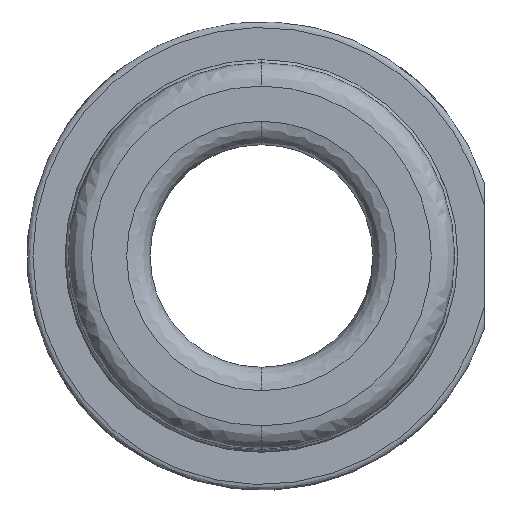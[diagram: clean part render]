
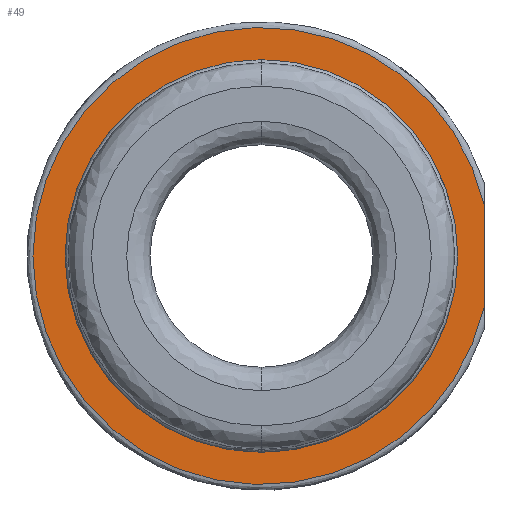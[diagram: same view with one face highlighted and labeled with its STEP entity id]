
A CAD part, left-side view. The second image highlights one B-rep face of the part: STEP entity #49.
In plain terms, the highlighted planar face has unit normal (-1, 0, 0).
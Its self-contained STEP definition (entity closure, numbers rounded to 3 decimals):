
#49=ADVANCED_FACE('',(#224,#225),#223,.F.);
#223=PLANE('',#1063);
#224=FACE_OUTER_BOUND('',#1064,.T.);
#225=FACE_BOUND('',#1065,.T.);
#1060=CARTESIAN_POINT('',(-5.,-24.357,38.646));
#1061=DIRECTION('',(1.,0.,0.));
#1062=DIRECTION('',(0.,0.,-1.));
#1063=AXIS2_PLACEMENT_3D('',#1060,#1061,#1062);
#1064=EDGE_LOOP('',(#2120,#2121));
#1065=EDGE_LOOP('',(#2122,#2123));
#2120=ORIENTED_EDGE('',*,*,#2449,.T.);
#2121=ORIENTED_EDGE('',*,*,#2443,.T.);
#2122=ORIENTED_EDGE('',*,*,#2450,.T.);
#2123=ORIENTED_EDGE('',*,*,#2451,.T.);
#2443=EDGE_CURVE('',#2819,#2812,#2820,.T.);
#2449=EDGE_CURVE('',#2812,#2819,#2860,.T.);
#2450=EDGE_CURVE('',#2866,#2867,#2868,.T.);
#2451=EDGE_CURVE('',#2867,#2866,#2874,.T.);
#2812=VERTEX_POINT('',#4093);
#2819=VERTEX_POINT('',#4106);
#2820=LINE('',#4107,#4108);
#2860=CIRCLE('',#4145,19.5);
#2866=VERTEX_POINT('',#4146);
#2867=VERTEX_POINT('',#4147);
#2868=CIRCLE('',#4151,16.5);
#2874=CIRCLE('',#4155,16.5);
#4093=CARTESIAN_POINT('',(-5.,-19.,4.387));
#4106=CARTESIAN_POINT('',(-5.,-19.,-4.387));
#4107=CARTESIAN_POINT('',(-5.,-19.,-4.387));
#4108=VECTOR('',#4109,8.775);
#4109=DIRECTION('',(0.,0.,1.));
#4142=CARTESIAN_POINT('',(-5.,0.,0.));
#4143=DIRECTION('',(-1.,0.,0.));
#4144=DIRECTION('',(0.,-0.974,-0.225));
#4145=AXIS2_PLACEMENT_3D('',#4142,#4143,#4144);
#4146=CARTESIAN_POINT('',(-5.,0.,-16.5));
#4147=CARTESIAN_POINT('',(-5.,0.,16.5));
#4148=CARTESIAN_POINT('',(-5.,0.,0.));
#4149=DIRECTION('',(1.,0.,0.));
#4150=DIRECTION('',(0.,0.,-1.));
#4151=AXIS2_PLACEMENT_3D('',#4148,#4149,#4150);
#4152=CARTESIAN_POINT('',(-5.,0.,0.));
#4153=DIRECTION('',(1.,0.,0.));
#4154=DIRECTION('',(0.,0.,-1.));
#4155=AXIS2_PLACEMENT_3D('',#4152,#4153,#4154);
